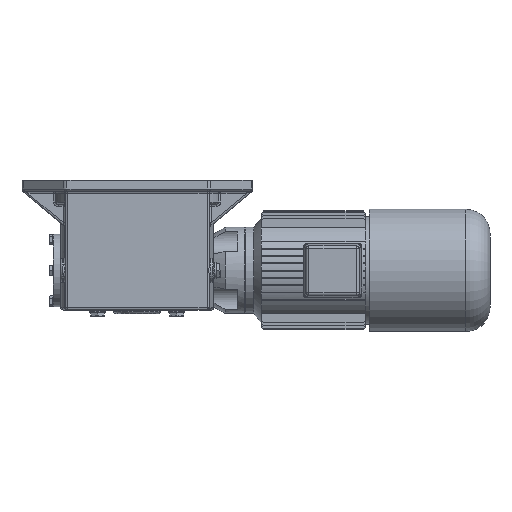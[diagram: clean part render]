
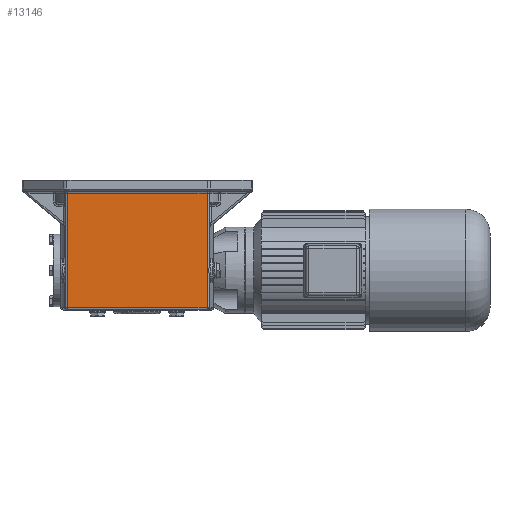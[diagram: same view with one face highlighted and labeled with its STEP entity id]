
A CAD part, left-side view. The second image highlights one B-rep face of the part: STEP entity #13146.
In plain terms, the highlighted planar face has unit normal (-1, 0, 0).
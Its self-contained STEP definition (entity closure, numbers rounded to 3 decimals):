
#3987=CARTESIAN_POINT('',(-239.,97.,3.0));
#3988=VERTEX_POINT('',#3987);
#3996=CARTESIAN_POINT('',(-239.,97.,162.0));
#3997=VERTEX_POINT('',#3996);
#3998=CARTESIAN_POINT('',(-239.,97.,3.0));
#3999=DIRECTION('',(0.0,0.0,1.0));
#4000=VECTOR('',#3999,159.0);
#4001=LINE('',#3998,#4000);
#4002=EDGE_CURVE('',#3988,#3997,#4001,.T.);
#12303=CARTESIAN_POINT('',(-239.,-97.,162.0));
#12304=VERTEX_POINT('',#12303);
#12480=CARTESIAN_POINT('',(-239.,97.0,162.0));
#12481=DIRECTION('',(0.0,-1.0,0.0));
#12482=VECTOR('',#12481,194.0);
#12483=LINE('',#12480,#12482);
#12484=EDGE_CURVE('',#3997,#12304,#12483,.T.);
#13111=CARTESIAN_POINT('',(-239.,-97.,3.0));
#13112=VERTEX_POINT('',#13111);
#13113=CARTESIAN_POINT('',(-239.,-97.,162.0));
#13114=DIRECTION('',(0.0,0.0,-1.0));
#13115=VECTOR('',#13114,159.0);
#13116=LINE('',#13113,#13115);
#13117=EDGE_CURVE('',#12304,#13112,#13116,.T.);
#13130=CARTESIAN_POINT('',(-239.,-100.,0.0));
#13131=DIRECTION('',(-1.0,0.0,0.0));
#13132=DIRECTION('',(0.0,0.0,1.0));
#13133=AXIS2_PLACEMENT_3D('',#13130,#13131,#13132);
#13134=PLANE('',#13133);
#13135=ORIENTED_EDGE('',*,*,#12484,.F.);
#13136=ORIENTED_EDGE('',*,*,#4002,.F.);
#13137=CARTESIAN_POINT('',(-239.,-97.0,3.0));
#13138=DIRECTION('',(0.0,1.0,0.0));
#13139=VECTOR('',#13138,194.0);
#13140=LINE('',#13137,#13139);
#13141=EDGE_CURVE('',#13112,#3988,#13140,.T.);
#13142=ORIENTED_EDGE('',*,*,#13141,.F.);
#13143=ORIENTED_EDGE('',*,*,#13117,.F.);
#13144=EDGE_LOOP('',(#13135,#13136,#13142,#13143));
#13145=FACE_OUTER_BOUND('',#13144,.T.);
#13146=ADVANCED_FACE('',(#13145),#13134,.T.);
